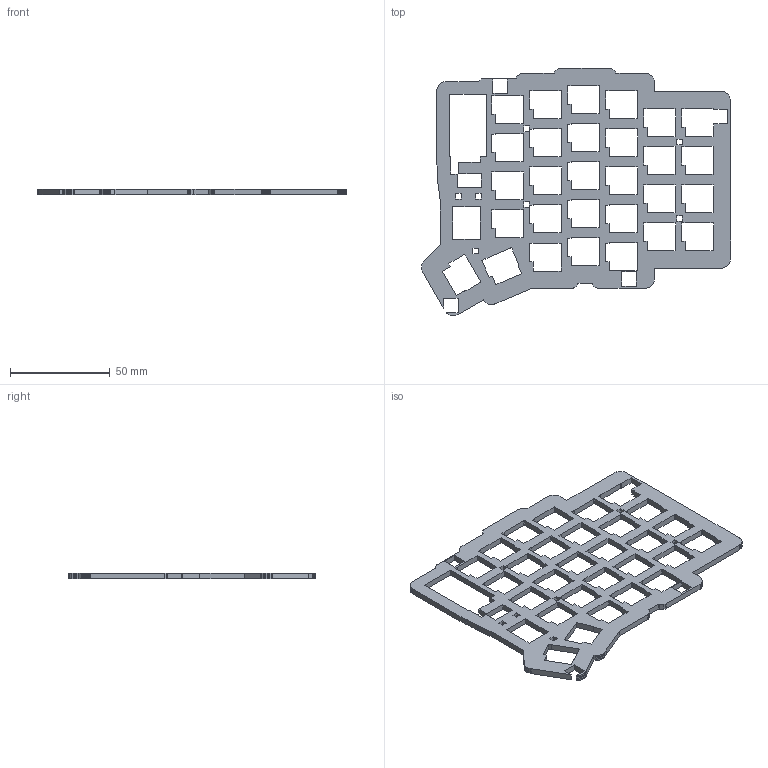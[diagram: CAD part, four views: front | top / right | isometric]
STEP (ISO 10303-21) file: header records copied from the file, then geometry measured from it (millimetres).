
FILE_DESCRIPTION(('Open CASCADE Model'),'2;1');
FILE_NAME('Open CASCADE Shape Model','1979-01-01T00:00:00',('Author'),( 'Open CASCADE'),'Open CASCADE STEP processor 8.0','Open CASCADE 8.0' ,'Unknown');
FILE_SCHEMA(('AUTOMOTIVE_DESIGN { 1 0 10303 214 1 1 1 1 }'));
Length unit declared in the file: millimetre
Products named in the file (1): Open CASCADE STEP translator 8.0 4
Bounding box: 154.57 x 123.84 x 3 mm (x, y, z)
Volume: 23744.3 mm3; surface area: 23786.5 mm2
Topology: 1 solids, 1 shells, 571 faces, 1707 edges, 1138 vertices
Faces by surface type: plane 571
Entity records: 41162 total; most frequent: CARTESIAN_POINT 6831, DIRECTION 6265, LINE 5121, VECTOR 5121, ORIENTED_EDGE 3414, PCURVE 3414, DEFINITIONAL_REPRESENTATION 3414, EDGE_CURVE 1707
